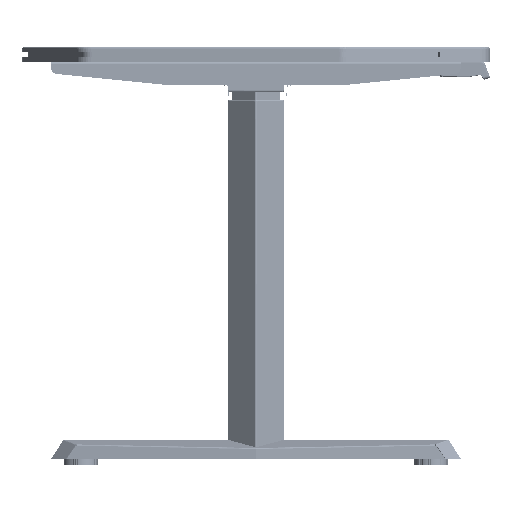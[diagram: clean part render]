
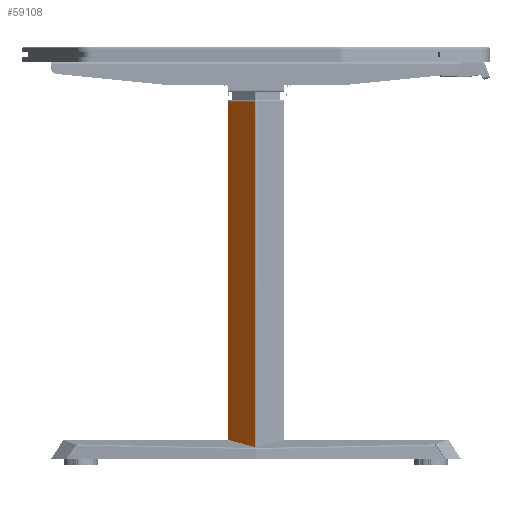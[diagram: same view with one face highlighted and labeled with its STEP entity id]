
A CAD part, front view. The second image highlights one B-rep face of the part: STEP entity #59108.
In plain terms, the highlighted planar face has unit normal (-0.707, -0.707, 0) as drawn and (0, -1, 0) by its records, which use the part's own axes.
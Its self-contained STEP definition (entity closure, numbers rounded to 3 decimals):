
#5077 = DIRECTION ( 'NONE',  ( 0., 0., -1. ) ) ;
#11719 = DIRECTION ( 'NONE',  ( 0., 1., 0. ) ) ;
#12919 = ORIENTED_EDGE ( 'NONE', *, *, #34632, .F. ) ;
#21630 = EDGE_CURVE ( 'NONE', #178046, #106108, #126318, .T. ) ;
#23913 = CARTESIAN_POINT ( 'NONE',  ( -32., -35., 0. ) ) ;
#25255 = AXIS2_PLACEMENT_3D ( 'NONE', #110710, #11719, #113508 ) ;
#26001 = PLANE ( 'NONE',  #25255 ) ;
#34632 = EDGE_CURVE ( 'NONE', #178046, #74712, #40017, .T. ) ;
#35493 = CARTESIAN_POINT ( 'NONE',  ( 32., -35., 0. ) ) ;
#40017 = LINE ( 'NONE', #23913, #49284 ) ;
#42016 = VERTEX_POINT ( 'NONE', #61962 ) ;
#45979 = DIRECTION ( 'NONE',  ( 1., 0., 0. ) ) ;
#48803 = LINE ( 'NONE', #35493, #115462 ) ;
#49284 = VECTOR ( 'NONE', #154315, 1000. ) ;
#52430 = EDGE_LOOP ( 'NONE', ( #164461, #176934, #178567, #12919 ) ) ;
#52652 = FACE_OUTER_BOUND ( 'NONE', #52430, .T. ) ;
#59108 = ADVANCED_FACE ( 'NONE', ( #52652 ), #26001, .F. ) ;
#61962 = CARTESIAN_POINT ( 'NONE',  ( 32., -35., 590. ) ) ;
#69544 = EDGE_CURVE ( 'NONE', #42016, #106108, #48803, .T. ) ;
#69660 = EDGE_CURVE ( 'NONE', #74712, #42016, #122070, .T. ) ;
#69817 = VECTOR ( 'NONE', #45979, 1000. ) ;
#74712 = VERTEX_POINT ( 'NONE', #134403 ) ;
#98686 = CARTESIAN_POINT ( 'NONE',  ( -32., -35., 12.361 ) ) ;
#106108 = VERTEX_POINT ( 'NONE', #171906 ) ;
#110710 = CARTESIAN_POINT ( 'NONE',  ( 35., -35., 0. ) ) ;
#113417 = VECTOR ( 'NONE', #154921, 1000. ) ;
#113508 = DIRECTION ( 'NONE',  ( 0., 0., 1. ) ) ;
#115462 = VECTOR ( 'NONE', #5077, 1000. ) ;
#122070 = LINE ( 'NONE', #176401, #69817 ) ;
#126318 = LINE ( 'NONE', #98686, #113417 ) ;
#132756 = CARTESIAN_POINT ( 'NONE',  ( -32., -35., 12.361 ) ) ;
#134403 = CARTESIAN_POINT ( 'NONE',  ( -32., -35., 590. ) ) ;
#154315 = DIRECTION ( 'NONE',  ( 0., 0., 1. ) ) ;
#154921 = DIRECTION ( 'NONE',  ( 0.983, 0., -0.186 ) ) ;
#164461 = ORIENTED_EDGE ( 'NONE', *, *, #21630, .T. ) ;
#171906 = CARTESIAN_POINT ( 'NONE',  ( 32., -35., 0.235 ) ) ;
#176401 = CARTESIAN_POINT ( 'NONE',  ( 32., -35., 590. ) ) ;
#176934 = ORIENTED_EDGE ( 'NONE', *, *, #69544, .F. ) ;
#178046 = VERTEX_POINT ( 'NONE', #132756 ) ;
#178567 = ORIENTED_EDGE ( 'NONE', *, *, #69660, .F. ) ;
